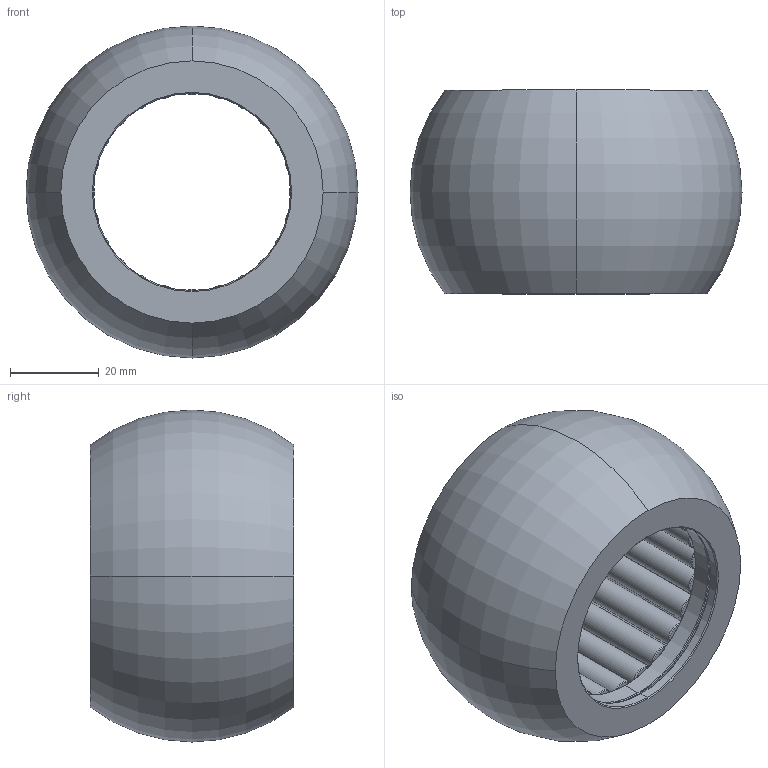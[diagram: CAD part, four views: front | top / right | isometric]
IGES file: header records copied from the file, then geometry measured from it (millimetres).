
Start section: 3D InterOp IGES (Version 20 0 1), Spatial Corp. Copyright (c) 1999-2007.
Global section: file name: 15.xx.44.igs; native system: Spatial Corp.; preprocessor: 3D InterOp GENERIC/IGES 3.0; author: Noname; organization: Noname; date: 20111114.154306; units: metre
Bounding box: 75 x 46 x 75 mm (x, y, z)
Surface area: 60558.3 mm2 (no closed solid volume)
Topology: 0 solids, 0 shells, 594 faces, 2476 edges, 2476 vertices
Faces by surface type: revolution 486, extrusion 108
